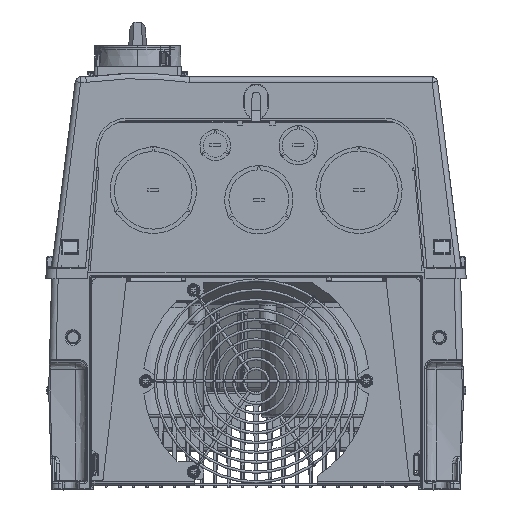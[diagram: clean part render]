
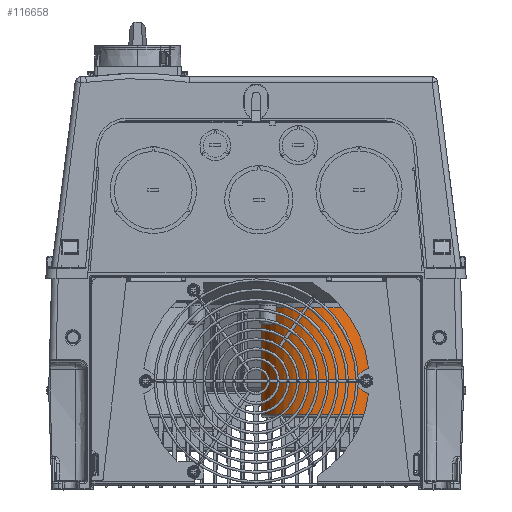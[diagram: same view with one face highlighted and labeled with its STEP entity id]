
A CAD part, front view. The second image highlights one B-rep face of the part: STEP entity #116658.
In plain terms, the highlighted cylindrical face has radius 46.1 mm (diameter 92.2 mm), a partial arc.
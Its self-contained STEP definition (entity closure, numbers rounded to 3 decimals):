
#19434=CARTESIAN_POINT('',(50.,-201.5,-104.813));
#19435=DIRECTION('',(0.,0.,1.));
#19436=DIRECTION('',(-1.,0.,0.));
#19437=AXIS2_PLACEMENT_3D('',#19434,#19435,#19436);
#19439=CARTESIAN_POINT('',(50.,-201.5,-26.2));
#19440=DIRECTION('',(0.,0.,-1.));
#19441=DIRECTION('',(0.,-1.,0.));
#19442=AXIS2_PLACEMENT_3D('',#19439,#19440,#19441);
#19444=CARTESIAN_POINT('',(50.,-201.5,-26.2));
#19445=DIRECTION('',(0.,0.,-1.));
#19446=DIRECTION('',(1.,0.,0.));
#19447=AXIS2_PLACEMENT_3D('',#19444,#19445,#19446);
#19449=DIRECTION('',(0.,0.,-1.));
#19450=VECTOR('',#19449,78.613);
#19451=CARTESIAN_POINT('',(96.1,-201.5,-26.2));
#19452=LINE('',#19451,#19450);
#19478=DIRECTION('',(0.,0.,-1.));
#19479=VECTOR('',#19478,78.613);
#19480=CARTESIAN_POINT('',(3.9,-201.5,-26.2));
#19481=LINE('',#19480,#19479);
#77914=CARTESIAN_POINT('',(96.1,-201.5,-26.2));
#77915=CARTESIAN_POINT('',(50.,-247.6,-26.2));
#77916=VERTEX_POINT('',#77914);
#77917=VERTEX_POINT('',#77915);
#77918=CARTESIAN_POINT('',(3.9,-201.5,-26.2));
#77919=VERTEX_POINT('',#77918);
#77948=CARTESIAN_POINT('',(96.1,-201.5,-104.813));
#77949=CARTESIAN_POINT('',(3.9,-201.5,-104.813));
#77950=VERTEX_POINT('',#77948);
#77951=VERTEX_POINT('',#77949);
#116642=CARTESIAN_POINT('',(50.,-201.5,3.));
#116643=DIRECTION('',(0.,0.,-1.));
#116644=DIRECTION('',(1.,0.,0.));
#116645=AXIS2_PLACEMENT_3D('',#116642,#116643,#116644);
#116646=CYLINDRICAL_SURFACE('',#116645,46.1);
#116648=ORIENTED_EDGE('',*,*,#116647,.F.);
#116650=ORIENTED_EDGE('',*,*,#116649,.F.);
#116651=ORIENTED_EDGE('',*,*,#116630,.F.);
#116653=ORIENTED_EDGE('',*,*,#116652,.F.);
#116655=ORIENTED_EDGE('',*,*,#116654,.T.);
#116656=EDGE_LOOP('',(#116648,#116650,#116651,#116653,#116655));
#116657=FACE_OUTER_BOUND('',#116656,.F.);
#19438=CIRCLE('',#19437,46.1);
#19443=CIRCLE('',#19442,46.1);
#19448=CIRCLE('',#19447,46.1);
#116630=EDGE_CURVE('',#77917,#77919,#19443,.T.);
#116647=EDGE_CURVE('',#77951,#77950,#19438,.T.);
#116649=EDGE_CURVE('',#77919,#77951,#19481,.T.);
#116652=EDGE_CURVE('',#77916,#77917,#19448,.T.);
#116654=EDGE_CURVE('',#77916,#77950,#19452,.T.);
#116658=ADVANCED_FACE('',(#116657),#116646,.T.);
